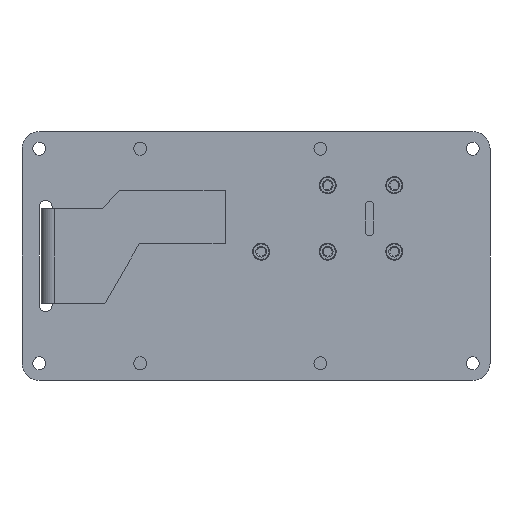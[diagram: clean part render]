
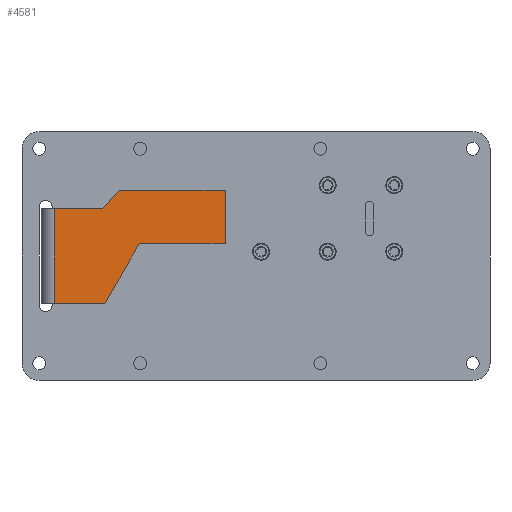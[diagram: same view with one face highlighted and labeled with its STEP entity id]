
A CAD part, front view. The second image highlights one B-rep face of the part: STEP entity #4581.
In plain terms, the highlighted planar face has unit normal (0, -1, 0).
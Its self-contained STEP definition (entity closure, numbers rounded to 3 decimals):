
#75 = AXIS2_PLACEMENT_3D ( 'NONE', #9624, #9626, #9628 ) ;
#2134 = EDGE_CURVE ( 'NONE', #4266, #4259, #4059, .T. ) ;
#2135 = EDGE_CURVE ( 'NONE', #4269, #4266, #4044, .T. ) ;
#2179 = EDGE_CURVE ( 'NONE', #4194, #4190, #8946, .T. ) ;
#2180 = EDGE_CURVE ( 'NONE', #4240, #4205, #8936, .T. ) ;
#2181 = EDGE_CURVE ( 'NONE', #4205, #4269, #8909, .T. ) ;
#2192 = EDGE_CURVE ( 'NONE', #4259, #4265, #8933, .T. ) ;
#2203 = EDGE_CURVE ( 'NONE', #4265, #4194, #8952, .T. ) ;
#2258 = EDGE_CURVE ( 'NONE', #4190, #4240, #9031, .T. ) ;
#2454 = FACE_OUTER_BOUND ( 'NONE', #5198, .T. ) ;
#4044 = LINE ( 'NONE', #5979, #4045 ) ;
#4045 = VECTOR ( 'NONE', #5975, 1000. ) ;
#4059 = LINE ( 'NONE', #5992, #4069 ) ;
#4069 = VECTOR ( 'NONE', #6010, 1000. ) ;
#4190 = VERTEX_POINT ( 'NONE', #6821 ) ;
#4194 = VERTEX_POINT ( 'NONE', #6831 ) ;
#4205 = VERTEX_POINT ( 'NONE', #6909 ) ;
#4240 = VERTEX_POINT ( 'NONE', #6901 ) ;
#4259 = VERTEX_POINT ( 'NONE', #6900 ) ;
#4265 = VERTEX_POINT ( 'NONE', #6978 ) ;
#4266 = VERTEX_POINT ( 'NONE', #6969 ) ;
#4269 = VERTEX_POINT ( 'NONE', #6967 ) ;
#4581 = ADVANCED_FACE ( 'NONE', ( #2454 ), #9647, .T. ) ;
#5198 = EDGE_LOOP ( 'NONE', ( #5479, #5384, #5477, #5489, #5474, #5460, #5469, #5472 ) ) ;
#5384 = ORIENTED_EDGE ( 'NONE', *, *, #2179, .T. ) ;
#5460 = ORIENTED_EDGE ( 'NONE', *, *, #2135, .T. ) ;
#5469 = ORIENTED_EDGE ( 'NONE', *, *, #2134, .T. ) ;
#5472 = ORIENTED_EDGE ( 'NONE', *, *, #2192, .T. ) ;
#5474 = ORIENTED_EDGE ( 'NONE', *, *, #2181, .T. ) ;
#5477 = ORIENTED_EDGE ( 'NONE', *, *, #2258, .T. ) ;
#5479 = ORIENTED_EDGE ( 'NONE', *, *, #2203, .T. ) ;
#5489 = ORIENTED_EDGE ( 'NONE', *, *, #2180, .T. ) ;
#5975 = DIRECTION ( 'NONE',  ( 0., 0., 1. ) ) ;
#5979 = CARTESIAN_POINT ( 'NONE',  ( -7.185, -5.1, 2.81 ) ) ;
#5992 = CARTESIAN_POINT ( 'NONE',  ( -7.185, -5.1, 15.31 ) ) ;
#6010 = DIRECTION ( 'NONE',  ( -1., 0., 0. ) ) ;
#6078 = CARTESIAN_POINT ( 'NONE',  ( -47.008, -5.1, 11. ) ) ;
#6085 = DIRECTION ( 'NONE',  ( 1., 0., 0. ) ) ;
#6093 = DIRECTION ( 'NONE',  ( 0., 0., -1. ) ) ;
#6095 = DIRECTION ( 'NONE',  ( 0.501, 0., 0.865 ) ) ;
#6096 = CARTESIAN_POINT ( 'NONE',  ( -27.185, -5.1, 2.81 ) ) ;
#6098 = CARTESIAN_POINT ( 'NONE',  ( -35.185, -5.1, -11. ) ) ;
#6114 = CARTESIAN_POINT ( 'NONE',  ( -31.785, -5.1, 15.31 ) ) ;
#6130 = DIRECTION ( 'NONE',  ( -0.68, 0., -0.733 ) ) ;
#6140 = CARTESIAN_POINT ( 'NONE',  ( -35.785, -5.1, 11. ) ) ;
#6142 = DIRECTION ( 'NONE',  ( -1., 0., 0. ) ) ;
#6245 = CARTESIAN_POINT ( 'NONE',  ( -56.485, -5.1, -11. ) ) ;
#6250 = DIRECTION ( 'NONE',  ( 1., 0., 0. ) ) ;
#6821 = CARTESIAN_POINT ( 'NONE',  ( -47.008, -5.1, -11. ) ) ;
#6831 = CARTESIAN_POINT ( 'NONE',  ( -47.008, -5.1, 11. ) ) ;
#6900 = CARTESIAN_POINT ( 'NONE',  ( -31.785, -5.1, 15.31 ) ) ;
#6901 = CARTESIAN_POINT ( 'NONE',  ( -35.185, -5.1, -11. ) ) ;
#6909 = CARTESIAN_POINT ( 'NONE',  ( -27.185, -5.1, 2.81 ) ) ;
#6967 = CARTESIAN_POINT ( 'NONE',  ( -7.185, -5.1, 2.81 ) ) ;
#6969 = CARTESIAN_POINT ( 'NONE',  ( -7.185, -5.1, 15.31 ) ) ;
#6978 = CARTESIAN_POINT ( 'NONE',  ( -35.785, -5.1, 11. ) ) ;
#8909 = LINE ( 'NONE', #6096, #8954 ) ;
#8923 = VECTOR ( 'NONE', #6130, 1000. ) ;
#8933 = LINE ( 'NONE', #6114, #8923 ) ;
#8935 = VECTOR ( 'NONE', #6093, 1000. ) ;
#8936 = LINE ( 'NONE', #6098, #8947 ) ;
#8946 = LINE ( 'NONE', #6078, #8935 ) ;
#8947 = VECTOR ( 'NONE', #6095, 1000. ) ;
#8952 = LINE ( 'NONE', #6140, #8959 ) ;
#8954 = VECTOR ( 'NONE', #6085, 1000. ) ;
#8959 = VECTOR ( 'NONE', #6142, 1000. ) ;
#9031 = LINE ( 'NONE', #6245, #9034 ) ;
#9034 = VECTOR ( 'NONE', #6250, 1000. ) ;
#9624 = CARTESIAN_POINT ( 'NONE',  ( -56.485, -5.1, 11. ) ) ;
#9626 = DIRECTION ( 'NONE',  ( 0., -1., 0. ) ) ;
#9628 = DIRECTION ( 'NONE',  ( 0., 0., 1. ) ) ;
#9647 = PLANE ( 'NONE',  #75 ) ;
